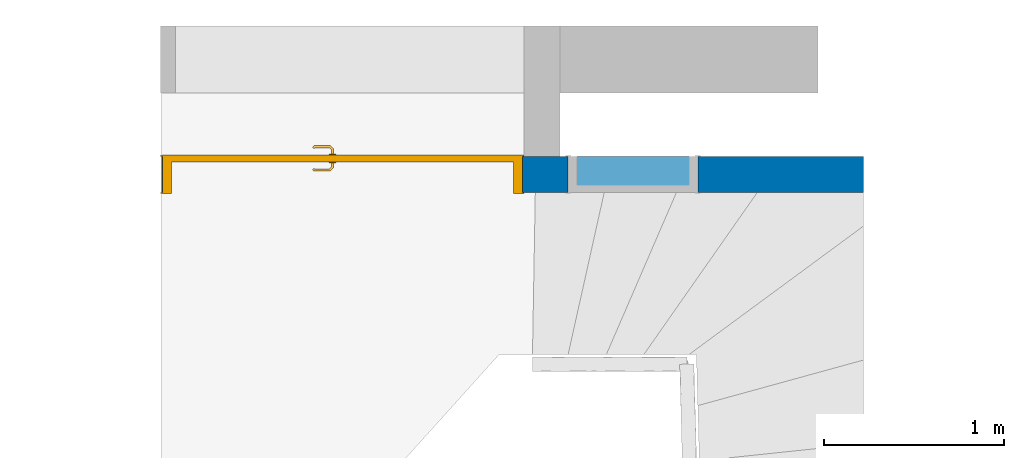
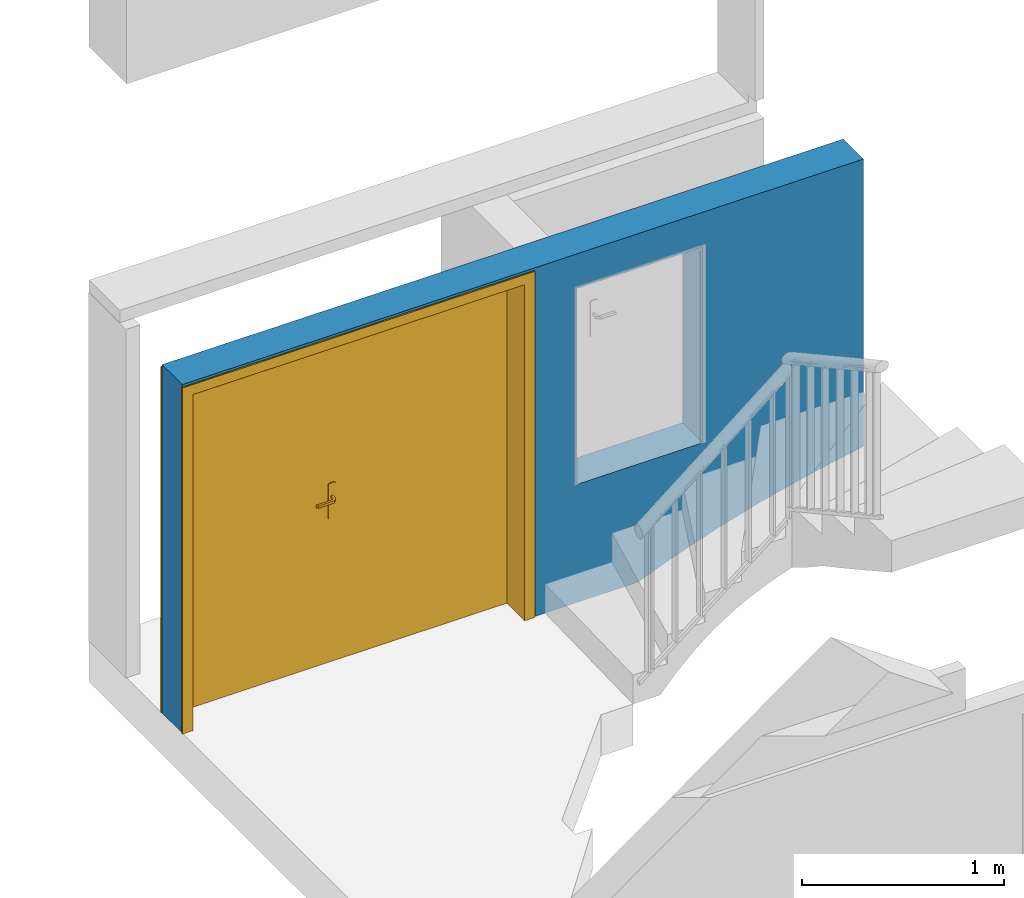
# One storey, part 5 of 13: 1 door, 1 wall, 2 openings.
"""IFC4 building model written with IfcOpenShell, lengths in metres."""

from ifc_helpers import new_model, entity, si_unit, converted_unit, derived_unit, direction, frame, origin, place, context, subcontext, project, spatial, indexed_curve, outline, extrude, polygons, source, transform, mapped, material, material_list, layer, layer_set, type_object, type_shapes, element, fill, save


model = new_model("IFC4")

# Units and contexts
model_context = context("Model", 3, precision=1e-05, world=origin(), true_north=direction((6.12303176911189e-17, 1.0)))
body_context = subcontext(model_context, "Body", "Model", "MODEL_VIEW")
ifc_project = project(units=[si_unit("LENGTHUNIT", "METRE"), si_unit("AREAUNIT", "SQUARE_METRE"), si_unit("VOLUMEUNIT", "CUBIC_METRE"), converted_unit("PLANEANGLEUNIT", "DEGREE", entity("IfcRatioMeasure", 0.0174532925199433), si_unit("PLANEANGLEUNIT", "RADIAN"), dimensions=[0, 0, 0, 0, 0, 0, 0]), si_unit("MASSUNIT", "GRAM", prefix="KILO"), derived_unit("MASSDENSITYUNIT", [(si_unit("MASSUNIT", "GRAM", prefix="KILO"), 1), (si_unit("LENGTHUNIT", "METRE"), -3)]), derived_unit("MOMENTOFINERTIAUNIT", [(si_unit("LENGTHUNIT", "METRE"), 4)]), si_unit("TIMEUNIT", "SECOND"), si_unit("FREQUENCYUNIT", "HERTZ"), si_unit("THERMODYNAMICTEMPERATUREUNIT", "DEGREE_CELSIUS"), derived_unit("THERMALTRANSMITTANCEUNIT", [(si_unit("MASSUNIT", "GRAM", prefix="KILO"), 1), (si_unit("THERMODYNAMICTEMPERATUREUNIT", "KELVIN"), -1), (si_unit("TIMEUNIT", "SECOND"), -3)]), derived_unit("VOLUMETRICFLOWRATEUNIT", [(si_unit("LENGTHUNIT", "METRE"), 3), (si_unit("TIMEUNIT", "SECOND"), -1)]), si_unit("ELECTRICCURRENTUNIT", "AMPERE"), si_unit("ELECTRICVOLTAGEUNIT", "VOLT"), si_unit("POWERUNIT", "WATT"), si_unit("FORCEUNIT", "NEWTON", prefix="KILO"), si_unit("ILLUMINANCEUNIT", "LUX"), si_unit("LUMINOUSFLUXUNIT", "LUMEN"), si_unit("LUMINOUSINTENSITYUNIT", "CANDELA"), derived_unit("USERDEFINED", [(si_unit("MASSUNIT", "GRAM", prefix="KILO"), -1), (si_unit("LENGTHUNIT", "METRE"), -2), (si_unit("TIMEUNIT", "SECOND"), 3), (si_unit("LUMINOUSFLUXUNIT", "LUMEN"), 1)]), derived_unit("LINEARVELOCITYUNIT", [(si_unit("LENGTHUNIT", "METRE"), 1), (si_unit("TIMEUNIT", "SECOND"), -1)]), si_unit("PRESSUREUNIT", "PASCAL"), derived_unit("USERDEFINED", [(si_unit("LENGTHUNIT", "METRE"), -2), (si_unit("MASSUNIT", "GRAM", prefix="KILO"), 1), (si_unit("TIMEUNIT", "SECOND"), -2)]), derived_unit("LINEARFORCEUNIT", [(si_unit("MASSUNIT", "GRAM", prefix="KILO"), 1), (si_unit("LENGTHUNIT", "METRE"), 1), (si_unit("TIMEUNIT", "SECOND"), -2), (si_unit("LENGTHUNIT", "METRE"), -1)]), derived_unit("PLANARFORCEUNIT", [(si_unit("MASSUNIT", "GRAM", prefix="KILO"), 1), (si_unit("LENGTHUNIT", "METRE"), 1), (si_unit("TIMEUNIT", "SECOND"), -2), (si_unit("LENGTHUNIT", "METRE"), -2)])], contexts=[model_context])

# Site, building, storey
site_placement = place(None, origin())
site = spatial("IfcSite", under=ifc_project, at=site_placement, Name="Default", CompositionType="ELEMENT")
building_placement = place(site_placement, origin())
building = spatial("IfcBuilding", under=site, at=building_placement, Name="HOTEL CONSULAIRE BOULOGNE SUR MER", CompositionType="ELEMENT")
storey_placement = place(building_placement, frame((0.0, 0.0, -1.40419978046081)))
storey = spatial("IfcBuildingStorey", under=building, at=storey_placement, Name="Demi-niveau", CompositionType="ELEMENT", Elevation=-1.40419978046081)

# Wall, openings, door
ifc_material_1 = material(Name="Mur par défaut", Category="Divers")
ifc_layer = layer(ifc_material_1, 0.2, Name="Mur par défaut", Category="Divers")
ifc_layer_set = layer_set([ifc_layer], Name="Mur de base:Générique - Ext. 200 mm")
wall_type = type_object("IfcWallType", Name="Mur de base:Générique - Ext. 200 mm", PredefinedType="NOTDEFINED", material=ifc_layer_set)
wall_placement = place(storey_placement, frame((-1.25942350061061, -10.6027043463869, -0.0015952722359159), z_axis=(0.0, 0.0, 1.0), x_axis=(-1.0, 0.0, 0.0)))
wall = element("IfcWall", 1, at=wall_placement, inside=storey, type_object=wall_type, material=ifc_layer_set, Name="Mur de base:Générique - Ext. 200 mm", ObjectType="Mur de base:Générique - Ext. 200 mm", PredefinedType="NOTDEFINED", context=body_context, shape_type="Tessellation", body=[
    polygons([(3.90034967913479, -0.100000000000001, 0.0015952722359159), (3.89432853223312, -0.100000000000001, 0.0015952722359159), (3.89432853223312, 0.0999999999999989, 0.0015952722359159), (3.90034967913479, 0.0999999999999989, 0.0015952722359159), (3.90034967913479, -0.100000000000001, 2.11132447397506), (1.88530555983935, -0.100000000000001, 2.11132447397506), (1.68530555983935, -0.100000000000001, 2.11132447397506), (6.071109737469e-16, -0.100000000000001, 2.11132447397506), (4.17560618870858e-14, -0.100000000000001, 0.370901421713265), (0.197501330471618, -0.100000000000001, 0.333224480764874), (0.393849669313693, -0.100000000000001, 0.289938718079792), (0.588855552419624, -0.100000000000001, 0.240965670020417), (0.811796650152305, -0.100000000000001, 0.176265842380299), (1.03187720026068, -0.0999999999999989, 0.102419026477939), (1.16290735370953, -0.100000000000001, 0.0535397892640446), (1.29275283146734, -0.100000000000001, 0.0015952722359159), (1.68530555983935, -0.100000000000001, 0.0015952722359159), (1.88530555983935, -0.100000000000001, 0.0015952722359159), (1.89432853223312, -0.100000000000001, 0.0015952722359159), (1.89432853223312, -0.100000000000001, 2.08659527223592), (3.89432853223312, -0.100000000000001, 2.08659527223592), (0.92029275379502, -0.100000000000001, 0.716595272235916), (0.92029275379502, -0.100000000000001, 1.90159527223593), (1.64029275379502, -0.0999999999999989, 1.90159527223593), (1.64029275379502, -0.0999999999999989, 0.716595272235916), (3.89432853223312, 0.0999999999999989, 2.08659527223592), (1.89432853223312, 0.0999999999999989, 2.08659527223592), (1.89432853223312, 0.0999999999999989, 0.0015952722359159), (1.29275283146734, 0.0999999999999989, 0.0015952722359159), (1.16290735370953, 0.0999999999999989, 0.0535397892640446), (1.03187720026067, 0.100000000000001, 0.102419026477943), (0.811796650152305, 0.0999999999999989, 0.176265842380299), (0.588885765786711, 0.0999999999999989, 0.2410792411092), (0.393849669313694, 0.0999999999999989, 0.289938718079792), (0.19750133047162, 0.0999999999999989, 0.333224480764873), (4.21648507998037e-14, 0.0999999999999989, 0.370901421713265), (-6.69672428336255e-17, 0.0999999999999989, 2.11132447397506), (3.90034967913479, 0.0999999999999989, 2.11132447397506), (0.920292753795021, 0.0999999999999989, 1.90159527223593), (0.920292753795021, 0.0999999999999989, 0.716595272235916), (1.64029275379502, 0.100000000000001, 0.716595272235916), (1.64029275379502, 0.100000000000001, 1.90159527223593)], [[[1, 2, 3, 4]], [[26, 21, 20, 27]], [[24, 23, 39, 42]], [[19, 18, 17, 16, 29, 28]], [[19, 20, 21, 2, 1, 5, 6, 7, 8, 9, 10, 11, 12, 13, 14, 15, 16, 17, 18], [25, 22, 23, 24]], [[38, 4, 3, 26, 27, 28, 29, 30, 31, 32, 33, 34, 35, 36, 37], [39, 40, 41, 42]], [[3, 2, 21, 26]], [[25, 24, 42, 41]], [[37, 36, 9, 8]], [[27, 20, 19, 28]], [[23, 22, 40, 39]], [[1, 4, 38, 5]], [[22, 25, 41, 40]], [[7, 6, 5, 38, 37, 8]], [[36, 35, 10, 9]], [[35, 34, 11, 10]], [[33, 12, 11]], [[11, 34, 33]], [[33, 13, 12]], [[32, 13, 33]], [[31, 14, 13, 32]], [[31, 30, 15, 14]], [[29, 16, 15, 30]]], closed=True),
])
opening_1_placement = place(wall_placement, frame((3.89432853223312, 0.0999999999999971, 0.0015952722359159)))
opening_1 = element("IfcOpeningElement", 2, at=opening_1_placement, cuts=wall, Name="Double (R):1.93x2.05 pvc blanc:1", ObjectType="Opening", PredefinedType="OPENING", context=body_context, shape_type="SweptSolid", body=[
    extrude(outline(indexed_curve([(0.0, -6.50100268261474e-30), (2.08500000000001, -6.50100268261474e-30), (2.08500000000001, 2.0), (0.0, 2.0), (0.0, -6.50100268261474e-30)], self_intersect=False)), frame((0.0, 0.0, 0.0), z_axis=(0.0, -1.0, 0.0), x_axis=(0.0, 0.0, 1.0)), (0.0, 0.0, 1.0), 0.2),
])
opening_2_placement = place(wall_placement, frame((0.920292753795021, -0.0999999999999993, 0.716595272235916)))
element("IfcOpeningElement", 3, at=opening_2_placement, cuts=wall, Name="Int. Simple:0.65x1.25:1", ObjectType="Opening", PredefinedType="OPENING", context=body_context, shape_type="SweptSolid", body=[
    extrude(outline(indexed_curve([(0.0, -6.44397634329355e-30), (1.18500000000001, -6.44397634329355e-30), (1.18500000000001, 0.719999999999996), (0.0, 0.719999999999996), (0.0, -6.44397634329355e-30)], self_intersect=False)), frame((0.0, 0.0, 0.0), z_axis=(0.0, 1.0, 0.0), x_axis=(0.0, 0.0, 1.0)), (0.0, 0.0, 1.0), 0.2),
])
ifc_material_2 = material(Name="PVC - Blanc", Category="Plastique")
ifc_material_list = material_list([ifc_material_2, ifc_material_2, ifc_material_2])
door_type = type_object("IfcDoorType", Name="Double (R):1.93x2.05 pvc blanc", OperationType="DOUBLE_DOOR_SINGLE_SWING", PredefinedType="DOOR", material=ifc_material_list)
shared_shape = source(origin(), body_context, "Body", "Tessellation", [
    polygons([(1.06100000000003, 0.0369999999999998, 0.993000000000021), (1.06100000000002, 0.0369999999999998, 1.00699999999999), (1.05702529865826, 0.0369999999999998, 1.00778044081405), (1.05297470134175, 0.0369999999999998, 1.00778044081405), (1.04899999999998, 0.0369999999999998, 1.00699999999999), (1.04899999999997, 0.0369999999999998, 0.992999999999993), (1.05297470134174, 0.0369999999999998, 0.992219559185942), (1.05702529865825, 0.0369999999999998, 0.992219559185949), (1.06100000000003, 0.0594852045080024, 0.993000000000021), (1.06100000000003, 0.0594852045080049, 1.00699999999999), (1.05702529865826, 0.061131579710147, 1.00778044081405), (1.05297470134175, 0.062809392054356, 1.00778044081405), (1.04899999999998, 0.0644557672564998, 1.00699999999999), (1.04899999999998, 0.0644557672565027, 0.992999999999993), (1.05297470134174, 0.0628093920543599, 0.992219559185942), (1.05702529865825, 0.0611315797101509, 0.992219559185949), (1.07248528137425, 0.0709704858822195, 0.993000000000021), (1.07248528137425, 0.0709704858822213, 1.00699999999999), (1.0708389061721, 0.0749451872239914, 1.00778044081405), (1.06916109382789, 0.0789957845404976, 1.00778044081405), (1.06751471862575, 0.0829704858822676, 1.00699999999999), (1.06751471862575, 0.0829704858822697, 0.992999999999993), (1.06916109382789, 0.078995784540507, 0.992219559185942), (1.0708389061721, 0.0749451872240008, 0.992219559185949), (1.1525605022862, 0.0709704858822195, 0.993000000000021), (1.15256050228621, 0.0709704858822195, 1.00699999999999), (1.15420687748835, 0.0749451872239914, 1.00778044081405), (1.15588468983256, 0.0789957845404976, 1.00778044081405), (1.1575310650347, 0.0829704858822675, 1.00699999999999), (1.11760057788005, 0.0829704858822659, 1.00699999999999), (1.1125228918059, 0.0771249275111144, 1.00787811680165), (1.11252289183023, 0.0709704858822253, 1.00699999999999), (1.1575310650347, 0.0829704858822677, 0.992999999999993), (1.15588468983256, 0.078995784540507, 0.992219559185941), (1.15420687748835, 0.0749451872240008, 0.992219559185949), (1.10744520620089, 0.0829704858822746, 0.992999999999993), (1.11252289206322, 0.0771249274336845, 0.992121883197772), (1.11252290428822, 0.0709704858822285, 0.993000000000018), (1.15787421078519, 0.0656567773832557, 0.993000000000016), (1.16068474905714, 0.0684673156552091, 0.992219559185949), (1.1635489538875, 0.071331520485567, 0.992219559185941), (1.16635949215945, 0.0741420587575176, 0.992999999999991), (1.16635949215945, 0.074142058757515, 1.00699999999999), (1.1635489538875, 0.0713315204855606, 1.00778044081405), (1.16068474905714, 0.0684673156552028, 1.00778044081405), (1.15787421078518, 0.065656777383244, 1.00699999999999)], [[[4, 5, 6, 7, 8, 1, 2, 3]], [[18, 17, 38, 25, 26, 32]], [[2, 1, 9, 10]], [[10, 11, 3, 2]], [[11, 19, 20, 12, 4, 3]], [[45, 44, 28, 27]], [[12, 13, 5, 4]], [[6, 5, 13, 14]], [[14, 15, 7, 6]], [[15, 23, 24, 16, 8, 7]], [[41, 40, 35, 34]], [[16, 9, 1, 8]], [[10, 9, 17, 18]], [[39, 40, 41, 42, 43, 44, 45, 46]], [[18, 19, 11, 10]], [[20, 21, 13, 12]], [[14, 13, 21, 22]], [[22, 23, 15, 14]], [[24, 17, 9, 16]], [[19, 32, 31]], [[28, 29, 30]], [[21, 20, 30]], [[30, 20, 31]], [[31, 32, 27]], [[27, 28, 31]], [[32, 19, 18]], [[26, 27, 32]], [[19, 31, 20]], [[30, 31, 28]], [[22, 21, 30, 29, 33, 36]], [[36, 37, 23]], [[37, 36, 34]], [[23, 22, 36]], [[33, 34, 36]], [[37, 38, 24]], [[24, 23, 37]], [[35, 38, 37]], [[17, 24, 38]], [[38, 35, 25]], [[35, 37, 34]], [[26, 25, 39, 46]], [[46, 45, 27, 26]], [[44, 43, 29, 28]], [[33, 29, 43, 42]], [[42, 41, 34, 33]], [[40, 39, 25, 35]]], closed=True),
    polygons([(1.04899999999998, -0.0130000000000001, 1.00699999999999), (1.05297470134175, -0.0130000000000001, 1.00778044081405), (1.05702529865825, -0.0130000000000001, 1.00778044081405), (1.06100000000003, -0.0130000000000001, 1.00699999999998), (1.06100000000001, -0.0130000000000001, 0.993000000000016), (1.05702529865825, -0.0130000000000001, 0.992219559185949), (1.05297470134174, -0.0130000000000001, 0.992219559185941), (1.04899999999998, -0.0130000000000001, 0.992999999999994), (1.04899999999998, -0.0406509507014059, 1.00699999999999), (1.05297470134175, -0.0390045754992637, 1.00778044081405), (1.05702529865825, -0.0373267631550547, 1.00778044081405), (1.06100000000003, -0.0356803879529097, 1.00699999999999), (1.06100000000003, -0.0356803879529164, 0.993000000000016), (1.05702529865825, -0.037326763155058, 0.992219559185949), (1.05297470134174, -0.039004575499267, 0.992219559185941), (1.04899999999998, -0.0406509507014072, 0.992999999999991), (1.06737720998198, -0.0590281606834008, 1.00699999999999), (1.06902358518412, -0.0550534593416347, 1.00778044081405), (1.07070139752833, -0.0510028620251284, 1.00778044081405), (1.07234777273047, -0.0470281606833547, 1.00699999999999), (1.07234777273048, -0.0470281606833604, 0.993000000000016), (1.07070139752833, -0.0510028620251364, 0.992219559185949), (1.06902358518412, -0.0550534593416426, 0.992219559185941), (1.06737720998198, -0.0590281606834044, 0.992999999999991), (1.15750392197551, -0.0590281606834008, 1.00699999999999), (1.15585754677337, -0.0550534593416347, 1.00778044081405), (1.15417973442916, -0.0510028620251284, 1.00778044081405), (1.15253335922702, -0.0470281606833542, 1.00699999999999), (1.10730769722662, -0.0590281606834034, 1.00699999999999), (1.11244056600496, -0.0531828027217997, 1.00787811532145), (1.11244056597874, -0.0470281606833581, 1.00699999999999), (1.15253335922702, -0.0470281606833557, 0.993000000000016), (1.15417973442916, -0.0510028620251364, 0.992219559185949), (1.15585754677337, -0.0550534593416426, 0.992219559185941), (1.15750392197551, -0.0590281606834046, 0.992999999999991), (1.11757343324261, -0.0590281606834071, 0.992999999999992), (1.11244056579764, -0.0531828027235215, 0.992121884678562), (1.11244056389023, -0.0470281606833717, 0.993000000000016), (1.16633234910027, -0.0501997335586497, 1.00699999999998), (1.16633234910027, -0.0501997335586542, 0.992999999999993), (1.16352181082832, -0.0473891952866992, 0.992219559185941), (1.16065760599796, -0.0445249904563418, 0.992219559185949), (1.15784706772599, -0.0417144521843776, 0.993000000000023), (1.157847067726, -0.041714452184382, 1.00699999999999), (1.16065760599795, -0.044524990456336, 1.00778044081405), (1.16352181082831, -0.0473891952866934, 1.00778044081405)], [[[2, 3, 4, 5, 6, 7, 8, 1]], [[21, 20, 31, 28, 32, 38]], [[9, 10, 2, 1]], [[10, 18, 19, 11, 3, 2]], [[46, 45, 27, 26]], [[11, 12, 4, 3]], [[5, 4, 12, 13]], [[13, 14, 6, 5]], [[14, 22, 23, 15, 7, 6]], [[42, 41, 34, 33]], [[15, 16, 8, 7]], [[1, 8, 16, 9]], [[17, 18, 10, 9]], [[19, 20, 12, 11]], [[13, 12, 20, 21]], [[44, 45, 46, 39, 40, 41, 42, 43]], [[21, 22, 14, 13]], [[23, 24, 16, 15]], [[9, 16, 24, 17]], [[29, 30, 18]], [[30, 29, 26]], [[18, 17, 29]], [[25, 26, 29]], [[30, 31, 19]], [[19, 18, 30]], [[27, 31, 30]], [[20, 19, 31]], [[31, 27, 28]], [[27, 30, 26]], [[22, 38, 37]], [[34, 35, 36]], [[24, 23, 36]], [[36, 23, 37]], [[37, 38, 33]], [[33, 34, 37]], [[38, 22, 21]], [[32, 33, 38]], [[22, 37, 23]], [[36, 37, 34]], [[17, 24, 36, 35, 25, 29]], [[39, 46, 26, 25]], [[45, 44, 28, 27]], [[32, 28, 44, 43]], [[43, 42, 33, 32]], [[41, 40, 35, 34]], [[25, 35, 40, 39]]], closed=True),
    polygons([(1.075, 0.0319999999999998, 1.08), (1.0653527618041, 0.0319999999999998, 1.08399601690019), (1.055, 0.0319999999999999, 1.08535898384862), (1.0446472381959, 0.0319999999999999, 1.08399601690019), (1.035, 0.0319999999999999, 1.08), (1.035, 0.0319999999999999, 0.870000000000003), (1.0446472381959, 0.0319999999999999, 0.866003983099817), (1.055, 0.0319999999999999, 0.864641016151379), (1.0653527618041, 0.0319999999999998, 0.866003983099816), (1.075, 0.0319999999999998, 0.870000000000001), (1.075, 0.0369999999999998, 1.08), (1.075, 0.0369999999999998, 0.870000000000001), (1.0653527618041, 0.0369999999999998, 0.866003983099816), (1.055, 0.0369999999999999, 0.864641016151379), (1.0446472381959, 0.0369999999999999, 0.866003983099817), (1.035, 0.0369999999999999, 0.870000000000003), (1.035, 0.0369999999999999, 1.08), (1.0446472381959, 0.0369999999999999, 1.08399601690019), (1.055, 0.0369999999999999, 1.08535898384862), (1.0653527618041, 0.0369999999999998, 1.08399601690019)], [[[9, 10, 1, 2, 3, 4, 5, 6, 7, 8]], [[20, 11, 12, 13, 14, 15, 16, 17, 18, 19]], [[11, 20, 2, 1]], [[2, 20, 19, 3]], [[19, 18, 4, 3]], [[18, 17, 5, 4]], [[6, 5, 17, 16]], [[16, 15, 7, 6]], [[7, 15, 14, 8]], [[14, 13, 9, 8]], [[13, 12, 10, 9]], [[1, 10, 12, 11]]], closed=True),
    polygons([(1.035, -0.0130000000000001, 0.870000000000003), (1.0446472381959, -0.0130000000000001, 0.866003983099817), (1.055, -0.0130000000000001, 0.864641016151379), (1.0653527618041, -0.0130000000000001, 0.866003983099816), (1.075, -0.0130000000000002, 0.870000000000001), (1.075, -0.0130000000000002, 1.08), (1.0653527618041, -0.0130000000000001, 1.08399601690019), (1.055, -0.0130000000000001, 1.08535898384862), (1.0446472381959, -0.0130000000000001, 1.08399601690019), (1.035, -0.0130000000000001, 1.08), (1.035, -0.00800000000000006, 0.870000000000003), (1.035, -0.00800000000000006, 1.08), (1.0446472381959, -0.00800000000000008, 1.08399601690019), (1.055, -0.00800000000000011, 1.08535898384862), (1.0653527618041, -0.00800000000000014, 1.08399601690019), (1.075, -0.00800000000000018, 1.08), (1.075, -0.00800000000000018, 0.870000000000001), (1.0653527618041, -0.00800000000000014, 0.866003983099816), (1.055, -0.00800000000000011, 0.864641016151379), (1.0446472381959, -0.00800000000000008, 0.866003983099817)], [[[4, 5, 6, 7, 8, 9, 10, 1, 2, 3]], [[15, 16, 17, 18, 19, 20, 11, 12, 13, 14]], [[11, 20, 2, 1]], [[2, 20, 19, 3]], [[19, 18, 4, 3]], [[18, 17, 5, 4]], [[6, 5, 17, 16]], [[16, 15, 7, 6]], [[7, 15, 14, 8]], [[14, 13, 9, 8]], [[13, 12, 10, 9]], [[1, 10, 12, 11]]], closed=True),
    polygons([(1.35358391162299e-16, 0.0, 0.0), (1.35358391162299e-16, 0.200000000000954, 0.0), (-0.00999999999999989, 0.200000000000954, 0.0), (-0.00999999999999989, 0.208000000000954, 0.0), (0.0499999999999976, 0.208000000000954, 0.0), (0.0499999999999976, 0.032, 0.0), (0.0349999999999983, 0.032, 0.0), (0.0349999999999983, -0.00799999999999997, 0.0), (-0.00999999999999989, -0.00799999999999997, 0.0), (-0.00999999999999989, 0.0, 0.0), (1.35358391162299e-16, 0.0, 2.08500000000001), (1.35358391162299e-16, 0.200000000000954, 2.08500000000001), (2.0, 0.200000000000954, 2.08500000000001), (2.0, 0.200000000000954, -4.03399441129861e-24), (2.01, 0.200000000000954, -4.03399441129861e-24), (2.01, 0.200000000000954, 2.09500000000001), (-0.00999999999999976, 0.200000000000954, 2.09500000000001), (-0.00999999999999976, 0.208000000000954, 2.09500000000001), (2.01, 0.208000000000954, 2.09500000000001), (2.01, 0.208000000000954, -1.41526701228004e-24), (1.95, 0.208000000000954, -4.96787801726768e-24), (1.95, 0.208000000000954, 2.03500000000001), (0.0499999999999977, 0.208000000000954, 2.03500000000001), (0.0499999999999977, 0.032, 2.03500000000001), (1.95, 0.032, 2.03500000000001), (1.95, 0.032, -5.28284718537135e-24), (1.965, 0.032, -1.11009125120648e-24), (1.965, 0.032, 2.05000000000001), (0.0349999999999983, 0.032, 2.05000000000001), (0.0349999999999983, -0.00799999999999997, 2.05000000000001), (1.965, -0.00799999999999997, 2.05000000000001), (1.965, -0.00799999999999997, 0.0), (2.01, -0.00799999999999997, -4.03399441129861e-24), (2.01, -0.00799999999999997, 2.09500000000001), (-0.00999999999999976, -0.00799999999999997, 2.09500000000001), (-0.00999999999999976, 0.0, 2.09500000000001), (2.01, 0.0, 2.09500000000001), (2.01, 0.0, -1.41526701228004e-24), (2.0, 0.0, 9.62838675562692e-27), (2.0, 0.0, 2.08500000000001)], [[[2, 3, 4, 5, 6, 7, 8, 9, 10, 1]], [[20, 15, 14, 39, 38, 33, 32, 27, 26, 21]], [[24, 23, 22, 25]], [[30, 29, 28, 31]], [[2, 1, 11, 12]], [[4, 3, 17, 18]], [[10, 9, 35, 36]], [[25, 22, 21, 26]], [[31, 28, 27, 32]], [[14, 15, 16, 17, 3, 2, 12, 13]], [[26, 27, 28, 29, 7, 6, 24, 25]], [[32, 33, 34, 35, 9, 8, 30, 31]], [[5, 4, 18, 19, 20, 21, 22, 23]], [[1, 10, 36, 37, 38, 39, 40, 11]], [[6, 5, 23, 24]], [[8, 7, 29, 30]], [[13, 40, 39, 14]], [[19, 16, 15, 20]], [[37, 34, 33, 38]], [[12, 11, 40, 13]], [[18, 17, 16, 19]], [[36, 35, 34, 37]]], closed=True),
    polygons([(1.965, -0.00799999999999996, 0.0), (1.965, -0.00799999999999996, 2.05000000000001), (0.999999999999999, -0.00799999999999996, 2.05000000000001), (0.999999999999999, -0.00799999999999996, 0.0), (1.965, 0.032, 0.0), (0.999999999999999, 0.032, 0.0), (0.999999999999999, 0.032, 2.05000000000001), (1.965, 0.032, 2.05000000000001)], [[[4, 1, 2, 3]], [[7, 8, 5, 6]], [[2, 1, 5, 8]], [[3, 2, 8, 7]], [[4, 3, 7, 6]], [[1, 4, 6, 5]]], closed=True),
    polygons([(0.0349999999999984, -0.00799999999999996, 2.05000000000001), (0.0349999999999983, -0.00799999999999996, 9.97727698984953e-19), (0.999999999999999, -0.00799999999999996, 0.0), (0.999999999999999, -0.00799999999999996, 2.05000000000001), (0.0349999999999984, 0.032, 2.05000000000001), (0.999999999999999, 0.032, 2.05000000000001), (0.999999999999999, 0.032, 0.0), (0.0349999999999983, 0.032, 0.0)], [[[4, 1, 2, 3]], [[7, 8, 5, 6]], [[2, 1, 5, 8]], [[3, 2, 8, 7]], [[4, 3, 7, 6]], [[1, 4, 6, 5]]], closed=True),
])
type_shapes(door_type, [shared_shape])
door_placement = place(opening_1_placement, frame((-2.0, -0.200000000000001, 0.0)))
door = element("IfcDoor", 4, at=door_placement, inside=storey, type_object=door_type, material=ifc_material_2, Name="Double (R):1.93x2.05 pvc blanc", ObjectType="Double (R):1.93x2.05 pvc blanc", OperationType="DOUBLE_DOOR_SINGLE_SWING", OverallHeight=2.08500000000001, OverallWidth=2.0, PredefinedType="DOOR", context=body_context, shape_type="MappedRepresentation", body=[
    mapped(shared_shape, transform((0.0, 0.0, 0.0), scale=1.0)),
])
fill(opening_1, door)

save(model, "model.ifc")
